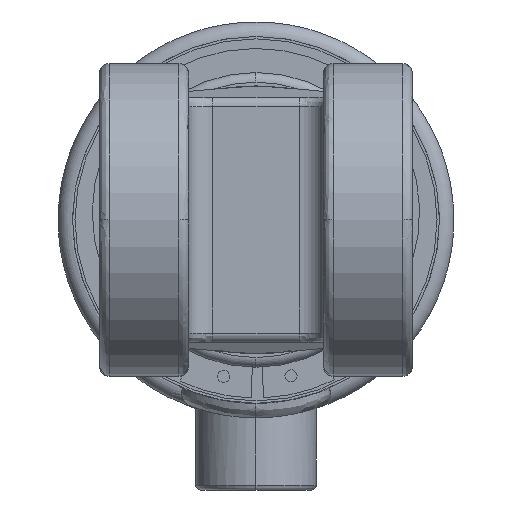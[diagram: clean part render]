
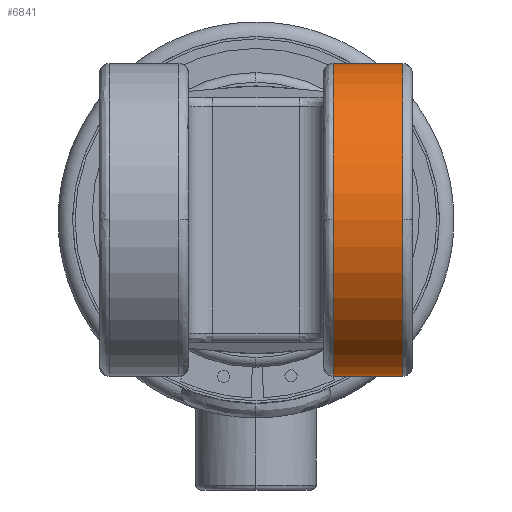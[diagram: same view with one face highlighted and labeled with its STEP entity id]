
A CAD part, left-side view. The second image highlights one B-rep face of the part: STEP entity #6841.
In plain terms, the highlighted cylindrical face has radius 32.5 mm (diameter 65 mm), a partial arc.
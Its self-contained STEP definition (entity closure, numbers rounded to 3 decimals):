
#259 = CARTESIAN_POINT ( 'NONE',  ( 44.795, -32.5, 32.5 ) ) ;
#303 = CARTESIAN_POINT ( 'NONE',  ( 44.795, -30.5, 0. ) ) ;
#355 = DIRECTION ( 'NONE',  ( 0., 1., 0. ) ) ;
#596 = VERTEX_POINT ( 'NONE', #3456 ) ;
#849 = CARTESIAN_POINT ( 'NONE',  ( 44.795, -32.5, 0. ) ) ;
#867 = AXIS2_PLACEMENT_3D ( 'NONE', #849, #11405, #7915 ) ;
#961 = ORIENTED_EDGE ( 'NONE', *, *, #9574, .T. ) ;
#966 = CARTESIAN_POINT ( 'NONE',  ( 44.795, -30.5, 32.5 ) ) ;
#1030 = CARTESIAN_POINT ( 'NONE',  ( 77.295, -30.5, 0. ) ) ;
#1190 = DIRECTION ( 'NONE',  ( 0., 0., 1. ) ) ;
#1886 = ORIENTED_EDGE ( 'NONE', *, *, #9193, .T. ) ;
#2233 = CARTESIAN_POINT ( 'NONE',  ( 44.795, -16., 0. ) ) ;
#2817 = CARTESIAN_POINT ( 'NONE',  ( 44.795, -32.5, -32.5 ) ) ;
#3102 = DIRECTION ( 'NONE',  ( 1., 0., 0. ) ) ;
#3120 = LINE ( 'NONE', #2817, #7559 ) ;
#3388 = VECTOR ( 'NONE', #5541, 1000. ) ;
#3422 = CARTESIAN_POINT ( 'NONE',  ( 44.795, -30.5, 0. ) ) ;
#3456 = CARTESIAN_POINT ( 'NONE',  ( 77.295, -16., 0. ) ) ;
#3480 = ORIENTED_EDGE ( 'NONE', *, *, #5021, .T. ) ;
#3691 = ORIENTED_EDGE ( 'NONE', *, *, #6001, .F. ) ;
#3858 = AXIS2_PLACEMENT_3D ( 'NONE', #3422, #9631, #4303 ) ;
#4205 = FACE_OUTER_BOUND ( 'NONE', #7090, .T. ) ;
#4299 = VERTEX_POINT ( 'NONE', #7672 ) ;
#4303 = DIRECTION ( 'NONE',  ( 0., 0., 1. ) ) ;
#4466 = ORIENTED_EDGE ( 'NONE', *, *, #7047, .F. ) ;
#5021 = EDGE_CURVE ( 'NONE', #4299, #7508, #3120, .T. ) ;
#5124 = AXIS2_PLACEMENT_3D ( 'NONE', #5644, #355, #6529 ) ;
#5541 = DIRECTION ( 'NONE',  ( 0., 1., 0. ) ) ;
#5644 = CARTESIAN_POINT ( 'NONE',  ( 44.795, -16., 0. ) ) ;
#5731 = CIRCLE ( 'NONE', #7981, 32.5 ) ;
#6001 = EDGE_CURVE ( 'NONE', #9096, #9917, #7826, .T. ) ;
#6242 = CARTESIAN_POINT ( 'NONE',  ( 44.795, -16., -32.5 ) ) ;
#6476 = DIRECTION ( 'NONE',  ( 0., 1., 0. ) ) ;
#6529 = DIRECTION ( 'NONE',  ( 1., 0., 0. ) ) ;
#6726 = ORIENTED_EDGE ( 'NONE', *, *, #11433, .F. ) ;
#6841 = ADVANCED_FACE ( 'NONE', ( #4205 ), #8651, .T. ) ;
#7047 = EDGE_CURVE ( 'NONE', #596, #7508, #5731, .T. ) ;
#7090 = EDGE_LOOP ( 'NONE', ( #961, #1886, #3480, #4466, #6726, #3691 ) ) ;
#7154 = CIRCLE ( 'NONE', #3858, 32.5 ) ;
#7508 = VERTEX_POINT ( 'NONE', #6242 ) ;
#7559 = VECTOR ( 'NONE', #9911, 1000. ) ;
#7672 = CARTESIAN_POINT ( 'NONE',  ( 44.795, -30.5, -32.5 ) ) ;
#7826 = LINE ( 'NONE', #259, #3388 ) ;
#7915 = DIRECTION ( 'NONE',  ( 0., 0., 1. ) ) ;
#7981 = AXIS2_PLACEMENT_3D ( 'NONE', #2233, #8404, #3102 ) ;
#8257 = CARTESIAN_POINT ( 'NONE',  ( 44.795, -16., 32.5 ) ) ;
#8404 = DIRECTION ( 'NONE',  ( 0., 1., 0. ) ) ;
#8651 = CYLINDRICAL_SURFACE ( 'NONE', #867, 32.5 ) ;
#8897 = VERTEX_POINT ( 'NONE', #1030 ) ;
#9096 = VERTEX_POINT ( 'NONE', #966 ) ;
#9193 = EDGE_CURVE ( 'NONE', #8897, #4299, #11163, .T. ) ;
#9574 = EDGE_CURVE ( 'NONE', #9096, #8897, #7154, .T. ) ;
#9631 = DIRECTION ( 'NONE',  ( 0., 1., 0. ) ) ;
#9911 = DIRECTION ( 'NONE',  ( 0., 1., 0. ) ) ;
#9917 = VERTEX_POINT ( 'NONE', #8257 ) ;
#10320 = CIRCLE ( 'NONE', #5124, 32.5 ) ;
#11163 = CIRCLE ( 'NONE', #11427, 32.5 ) ;
#11405 = DIRECTION ( 'NONE',  ( 0., 1., 0. ) ) ;
#11427 = AXIS2_PLACEMENT_3D ( 'NONE', #303, #6476, #1190 ) ;
#11433 = EDGE_CURVE ( 'NONE', #9917, #596, #10320, .T. ) ;
